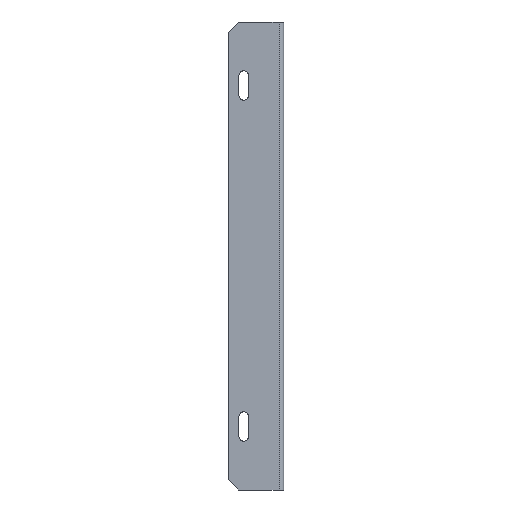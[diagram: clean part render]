
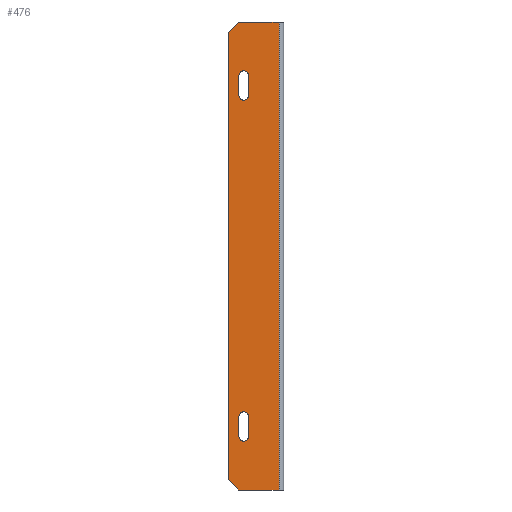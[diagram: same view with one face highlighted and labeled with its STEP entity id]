
A CAD part, left-side view. The second image highlights one B-rep face of the part: STEP entity #476.
In plain terms, the highlighted planar face has unit normal (-1, 0, 0).
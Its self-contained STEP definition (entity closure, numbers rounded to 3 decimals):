
#54 = VERTEX_POINT ( 'NONE', #307 ) ;
#87 = VERTEX_POINT ( 'NONE', #339 ) ;
#88 = VERTEX_POINT ( 'NONE', #340 ) ;
#91 = VERTEX_POINT ( 'NONE', #343 ) ;
#95 = VERTEX_POINT ( 'NONE', #347 ) ;
#99 = VERTEX_POINT ( 'NONE', #351 ) ;
#100 = VERTEX_POINT ( 'NONE', #352 ) ;
#101 = VERTEX_POINT ( 'NONE', #353 ) ;
#102 = VERTEX_POINT ( 'NONE', #354 ) ;
#103 = VERTEX_POINT ( 'NONE', #355 ) ;
#104 = VERTEX_POINT ( 'NONE', #356 ) ;
#105 = VERTEX_POINT ( 'NONE', #357 ) ;
#106 = VERTEX_POINT ( 'NONE', #358 ) ;
#107 = VERTEX_POINT ( 'NONE', #359 ) ;
#132 = EDGE_LOOP ( 'NONE', ( #576, #577, #578, #579 ) ) ;
#133 = EDGE_LOOP ( 'NONE', ( #580, #581, #582, #583 ) ) ;
#136 = EDGE_LOOP ( 'NONE', ( #584, #585, #586, #587, #588, #589 ) ) ;
#307 = CARTESIAN_POINT ( 'NONE',  ( 0., 3.5, 175. ) ) ;
#339 = CARTESIAN_POINT ( 'NONE',  ( 0., 33.7, 175. ) ) ;
#340 = CARTESIAN_POINT ( 'NONE',  ( 0., 3.5, -175. ) ) ;
#343 = CARTESIAN_POINT ( 'NONE',  ( 0., 41.5, 167.2 ) ) ;
#347 = CARTESIAN_POINT ( 'NONE',  ( 0., 33.5, 120. ) ) ;
#351 = CARTESIAN_POINT ( 'NONE',  ( 0., 41.5, -167.2 ) ) ;
#352 = CARTESIAN_POINT ( 'NONE',  ( 0., 33.5, -135. ) ) ;
#353 = CARTESIAN_POINT ( 'NONE',  ( 0., 26.5, -135. ) ) ;
#354 = CARTESIAN_POINT ( 'NONE',  ( 0., 26.5, 135. ) ) ;
#355 = CARTESIAN_POINT ( 'NONE',  ( 0., 33.5, 135. ) ) ;
#356 = CARTESIAN_POINT ( 'NONE',  ( 0., 26.5, 120. ) ) ;
#357 = CARTESIAN_POINT ( 'NONE',  ( 0., 26.5, -120. ) ) ;
#358 = CARTESIAN_POINT ( 'NONE',  ( 0., 33.5, -120. ) ) ;
#359 = CARTESIAN_POINT ( 'NONE',  ( 0., 33.7, -175. ) ) ;
#476 = ADVANCED_FACE ( 'NONE', ( #794, #797, #791 ), #1268, .F. ) ;
#536 = EDGE_CURVE ( 'NONE', #87, #54, #899, .T. ) ;
#557 = EDGE_CURVE ( 'NONE', #91, #99, #935, .T. ) ;
#560 = EDGE_CURVE ( 'NONE', #103, #95, #941, .T. ) ;
#561 = EDGE_CURVE ( 'NONE', #102, #103, #937, .T. ) ;
#562 = EDGE_CURVE ( 'NONE', #104, #102, #943, .T. ) ;
#563 = EDGE_CURVE ( 'NONE', #95, #104, #945, .T. ) ;
#564 = EDGE_CURVE ( 'NONE', #101, #105, #946, .T. ) ;
#565 = EDGE_CURVE ( 'NONE', #100, #101, #948, .T. ) ;
#576 = ORIENTED_EDGE ( 'NONE', *, *, #560, .F. ) ;
#577 = ORIENTED_EDGE ( 'NONE', *, *, #561, .F. ) ;
#578 = ORIENTED_EDGE ( 'NONE', *, *, #562, .F. ) ;
#579 = ORIENTED_EDGE ( 'NONE', *, *, #563, .F. ) ;
#580 = ORIENTED_EDGE ( 'NONE', *, *, #564, .F. ) ;
#581 = ORIENTED_EDGE ( 'NONE', *, *, #565, .F. ) ;
#582 = ORIENTED_EDGE ( 'NONE', *, *, #1065, .F. ) ;
#583 = ORIENTED_EDGE ( 'NONE', *, *, #1066, .F. ) ;
#584 = ORIENTED_EDGE ( 'NONE', *, *, #536, .F. ) ;
#585 = ORIENTED_EDGE ( 'NONE', *, *, #1067, .T. ) ;
#586 = ORIENTED_EDGE ( 'NONE', *, *, #557, .T. ) ;
#587 = ORIENTED_EDGE ( 'NONE', *, *, #1068, .T. ) ;
#588 = ORIENTED_EDGE ( 'NONE', *, *, #1069, .T. ) ;
#589 = ORIENTED_EDGE ( 'NONE', *, *, #1070, .F. ) ;
#791 = FACE_OUTER_BOUND ( 'NONE', #136, .T. ) ;
#794 = FACE_BOUND ( 'NONE', #132, .T. ) ;
#797 = FACE_BOUND ( 'NONE', #133, .T. ) ;
#899 = LINE ( 'NONE', #1495, #902 ) ;
#902 = VECTOR ( 'NONE', #1496, 1000. ) ;
#935 = LINE ( 'NONE', #1543, #938 ) ;
#937 = CIRCLE ( 'NONE', #1438, 3.5 ) ;
#938 = VECTOR ( 'NONE', #1544, 1000. ) ;
#941 = LINE ( 'NONE', #1548, #944 ) ;
#943 = LINE ( 'NONE', #1551, #947 ) ;
#944 = VECTOR ( 'NONE', #1550, 1000. ) ;
#945 = CIRCLE ( 'NONE', #1439, 3.5 ) ;
#946 = LINE ( 'NONE', #1557, #950 ) ;
#947 = VECTOR ( 'NONE', #1549, 1000. ) ;
#948 = CIRCLE ( 'NONE', #1440, 3.5 ) ;
#949 = LINE ( 'NONE', #1578, #951 ) ;
#950 = VECTOR ( 'NONE', #1555, 1000. ) ;
#951 = VECTOR ( 'NONE', #1579, 1000. ) ;
#952 = LINE ( 'NONE', #1582, #957 ) ;
#953 = CIRCLE ( 'NONE', #1441, 3.5 ) ;
#954 = LINE ( 'NONE', #1590, #961 ) ;
#955 = VECTOR ( 'NONE', #1587, 1000. ) ;
#956 = LINE ( 'NONE', #1588, #959 ) ;
#957 = VECTOR ( 'NONE', #1580, 1000. ) ;
#958 = LINE ( 'NONE', #1586, #955 ) ;
#959 = VECTOR ( 'NONE', #1589, 1000. ) ;
#961 = VECTOR ( 'NONE', #1591, 1000. ) ;
#1065 = EDGE_CURVE ( 'NONE', #106, #100, #949, .T. ) ;
#1066 = EDGE_CURVE ( 'NONE', #105, #106, #953, .T. ) ;
#1067 = EDGE_CURVE ( 'NONE', #87, #91, #952, .T. ) ;
#1068 = EDGE_CURVE ( 'NONE', #99, #107, #958, .T. ) ;
#1069 = EDGE_CURVE ( 'NONE', #107, #88, #956, .T. ) ;
#1070 = EDGE_CURVE ( 'NONE', #54, #88, #954, .T. ) ;
#1142 = AXIS2_PLACEMENT_3D ( 'NONE', #1266, #1261, #1270 ) ;
#1261 = DIRECTION ( 'NONE',  ( 1., 0., 0. ) ) ;
#1266 = CARTESIAN_POINT ( 'NONE',  ( 0., 41.5, 175. ) ) ;
#1268 = PLANE ( 'NONE',  #1142 ) ;
#1270 = DIRECTION ( 'NONE',  ( 0., 1., 0. ) ) ;
#1438 = AXIS2_PLACEMENT_3D ( 'NONE', #1552, #1553, #1554 ) ;
#1439 = AXIS2_PLACEMENT_3D ( 'NONE', #1558, #1559, #1560 ) ;
#1440 = AXIS2_PLACEMENT_3D ( 'NONE', #1565, #1566, #1567 ) ;
#1441 = AXIS2_PLACEMENT_3D ( 'NONE', #1583, #1584, #1585 ) ;
#1495 = CARTESIAN_POINT ( 'NONE',  ( 0., 41.5, 175. ) ) ;
#1496 = DIRECTION ( 'NONE',  ( 0., -1., 0. ) ) ;
#1543 = CARTESIAN_POINT ( 'NONE',  ( 0., 41.5, 175. ) ) ;
#1544 = DIRECTION ( 'NONE',  ( 0., 0., -1. ) ) ;
#1548 = CARTESIAN_POINT ( 'NONE',  ( 0., 33.5, 135. ) ) ;
#1549 = DIRECTION ( 'NONE',  ( 0., 0., 1. ) ) ;
#1550 = DIRECTION ( 'NONE',  ( 0., 0., -1. ) ) ;
#1551 = CARTESIAN_POINT ( 'NONE',  ( 0., 26.5, 135. ) ) ;
#1552 = CARTESIAN_POINT ( 'NONE',  ( 0., 30., 135. ) ) ;
#1553 = DIRECTION ( 'NONE',  ( -1., 0., 0. ) ) ;
#1554 = DIRECTION ( 'NONE',  ( 0., 1., 0. ) ) ;
#1555 = DIRECTION ( 'NONE',  ( 0., 0., 1. ) ) ;
#1557 = CARTESIAN_POINT ( 'NONE',  ( 0., 26.5, -135. ) ) ;
#1558 = CARTESIAN_POINT ( 'NONE',  ( 0., 30., 120. ) ) ;
#1559 = DIRECTION ( 'NONE',  ( -1., 0., 0. ) ) ;
#1560 = DIRECTION ( 'NONE',  ( 0., -1., 0. ) ) ;
#1565 = CARTESIAN_POINT ( 'NONE',  ( 0., 30., -135. ) ) ;
#1566 = DIRECTION ( 'NONE',  ( -1., 0., 0. ) ) ;
#1567 = DIRECTION ( 'NONE',  ( 0., -1., 0. ) ) ;
#1578 = CARTESIAN_POINT ( 'NONE',  ( 0., 33.5, -135. ) ) ;
#1579 = DIRECTION ( 'NONE',  ( 0., 0., -1. ) ) ;
#1580 = DIRECTION ( 'NONE',  ( 0., 0.707, -0.707 ) ) ;
#1582 = CARTESIAN_POINT ( 'NONE',  ( 0., 41.5, 167.2 ) ) ;
#1583 = CARTESIAN_POINT ( 'NONE',  ( 0., 30., -120. ) ) ;
#1584 = DIRECTION ( 'NONE',  ( -1., 0., 0. ) ) ;
#1585 = DIRECTION ( 'NONE',  ( 0., 1., 0. ) ) ;
#1586 = CARTESIAN_POINT ( 'NONE',  ( 0., 33.7, -175. ) ) ;
#1587 = DIRECTION ( 'NONE',  ( 0., -0.707, -0.707 ) ) ;
#1588 = CARTESIAN_POINT ( 'NONE',  ( 0., 41.5, -175. ) ) ;
#1589 = DIRECTION ( 'NONE',  ( 0., -1., 0. ) ) ;
#1590 = CARTESIAN_POINT ( 'NONE',  ( 0., 3.5, 175. ) ) ;
#1591 = DIRECTION ( 'NONE',  ( 0., 0., -1. ) ) ;
